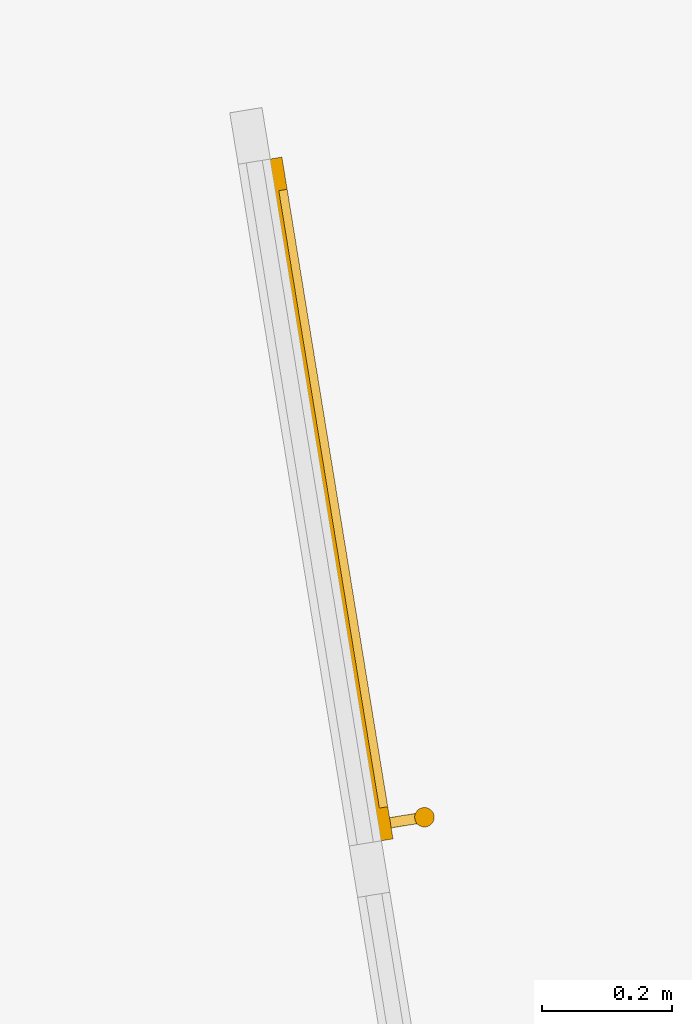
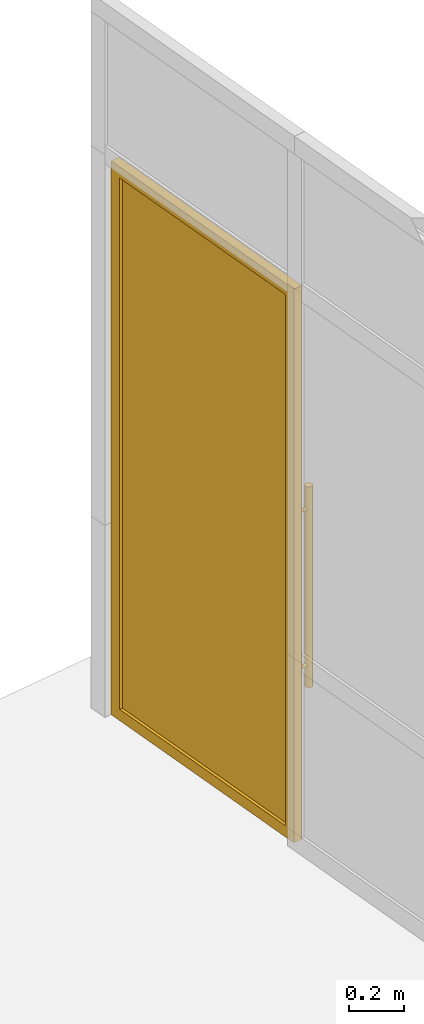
# One storey, part 17 of 18: 1 door, 1 element without a shape of its own.
"""IFC2X3 building model written with IfcOpenShell, lengths in millimetres."""

from ifc_helpers import new_model, entity, si_unit, converted_unit, derived_unit, direction, frame, origin, origin_with_axes, origin_2d_with_axis, place, context, subcontext, project, spatial, polyline, rectangle, circle, outline, extrude, source, transform, mapped, material, material_list, type_object, element, aggregate, save


model = new_model("IFC2X3")

# Units and contexts
model_context = context("Model", 3, precision=0.01, world=origin(), true_north=direction((6.12323399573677e-17, 1.0)))
plan_context = context("Plan", 3, precision=1e-05, world=origin_with_axes())
body_context = subcontext(model_context, "Body", "Model", "MODEL_VIEW")
ifc_project = project(units=[converted_unit("PLANEANGLEUNIT", "DEGREE", entity("IfcPositiveLengthMeasure", 0.0174532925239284), si_unit("PLANEANGLEUNIT", "RADIAN"), dimensions=[0, 0, 0, 0, 0, 0, 0]), si_unit("AREAUNIT", "SQUARE_METRE"), si_unit("LENGTHUNIT", "METRE", prefix="MILLI"), si_unit("MASSUNIT", "GRAM", prefix="KILO"), si_unit("POWERUNIT", "WATT"), si_unit("PRESSUREUNIT", "PASCAL", prefix="KILO"), si_unit("FORCEUNIT", "NEWTON", prefix="KILO"), si_unit("ELECTRICVOLTAGEUNIT", "VOLT"), si_unit("ELECTRICCURRENTUNIT", "AMPERE"), si_unit("THERMODYNAMICTEMPERATUREUNIT", "DEGREE_CELSIUS"), si_unit("TIMEUNIT", "SECOND"), si_unit("VOLUMEUNIT", "CUBIC_METRE"), derived_unit("LINEARVELOCITYUNIT", [(si_unit("LENGTHUNIT", "METRE"), 1), (si_unit("TIMEUNIT", "SECOND"), -1)]), derived_unit("VOLUMETRICFLOWRATEUNIT", [(si_unit("VOLUMEUNIT", "CUBIC_METRE"), 1), (si_unit("TIMEUNIT", "SECOND"), -1)]), derived_unit("THERMALTRANSMITTANCEUNIT", [(si_unit("POWERUNIT", "WATT"), 1), (si_unit("THERMODYNAMICTEMPERATUREUNIT", "KELVIN"), -1), (si_unit("AREAUNIT", "SQUARE_METRE"), -1)]), derived_unit("SOUNDPRESSUREUNIT", [(si_unit("PRESSUREUNIT", "PASCAL"), 1)])], contexts=[model_context, plan_context])

# Site, building, storey
site_placement = place(None, frame((-305029.896016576, -232111.759730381, 0.0), z_axis=(0.0, 0.0, 1.0), x_axis=(-0.160806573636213, 0.986985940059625, 0.0)))
site = spatial("IfcSite", under=ifc_project, at=site_placement, Name="Default", CompositionType="ELEMENT")
building_placement = place(site_placement, frame((0.0, 0.0, 0.0), z_axis=(0.0, 0.0, 1.0), x_axis=(1.0, -2.77555756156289e-17, 0.0)))
building = spatial("IfcBuilding", under=site, at=building_placement, Name="br001-a-200-1-0001", CompositionType="ELEMENT")
storey_placement = place(building_placement, frame((0.0, 0.0, 55500.0), z_axis=(0.0, 0.0, 1.0), x_axis=(1.0, -2.77555756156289e-17, 0.0)))
storey = spatial("IfcBuildingStorey", under=building, at=storey_placement, Name="H02-Nivå F-3,5 m", CompositionType="ELEMENT", Elevation=55500.0)

# Curtain wall, door
curtain_wall_type = type_object("IfcCurtainWallType", Name="Curtain Wall:A243 Innvendig glassvegg", PredefinedType="NOTDEFINED")
curtain_wall_placement = place(storey_placement, frame((0.0, 0.0, -55500.0), z_axis=(0.0, 0.0, 1.0), x_axis=(1.0, -2.77555756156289e-17, 0.0)))
curtain_wall = element("IfcCurtainWall", 1, at=curtain_wall_placement, inside=storey, type_object=curtain_wall_type, Name="Curtain Wall:A243 Innvendig glassvegg", ObjectType="Curtain Wall:A243 Innvendig glassvegg")
ifc_material_1 = material(Name="Metal - Aluminum")
ifc_material_2 = material(Name="Glass")
ifc_material_list = material_list([ifc_material_1, ifc_material_2])
door_style = type_object("IfcDoorStyle", Name="Sgl Glass (1):IDG 11x21 M", ConstructionType="NOTDEFINED", OperationType="NOTDEFINED", ParameterTakesPrecedence=False, Sizeable=False, material=ifc_material_list)
shared_shape = source(origin(), body_context, "Body", "SweptSolid", [
    extrude(outline(polyline([(-1240.0, -530.0), (1240.0, -530.0), (1240.0, 530.0), (-1240.0, 530.0), (-1240.0, -530.0)]), holes=[polyline([(1190.0, 480.0), (1190.0, -480.0), (-1190.0, -480.0), (-1190.0, 480.0), (1190.0, 480.0)])]), frame((0.0, 43.0, 1240.0), z_axis=(0.0, -1.0, 0.0), x_axis=(0.0, 0.0, 1.0)), (0.0, 0.0, 1.0), 38.0000000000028),
    extrude(rectangle(XDim=12.0, YDim=960.000000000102, at=origin_2d_with_axis()), frame((0.0, 24.0, 50.0), z_axis=(0.0, 0.0, 1.0), x_axis=(0.0, -1.0, 0.0)), (0.0, 0.0, 1.0), 2380.0),
    extrude(circle(Radius=15.0, at=origin_2d_with_axis()), frame((505.0, 96.0, 650.0), z_axis=(0.0, 0.0, 1.0), x_axis=(0.0, 1.0, 0.0)), (0.0, 0.0, 1.0), 899.999999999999),
    extrude(circle(Radius=8.0, at=origin_2d_with_axis()), frame((505.0, 96.0, 750.0), z_axis=(0.0, -1.0, 0.0), x_axis=(1.0, 0.0, 0.0)), (0.0, 0.0, 1.0), 53.0),
    extrude(circle(Radius=8.0, at=origin_2d_with_axis()), frame((505.0, 96.0, 1450.0), z_axis=(0.0, -1.0, 0.0), x_axis=(1.0, 0.0, 0.0)), (0.0, 0.0, 1.0), 53.0),
])
door_placement = place(curtain_wall_placement, frame((1195813.59858442, -728835.878367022, 55500.0), z_axis=(0.0, 0.0, 1.0), x_axis=(-1.0, 2.77555756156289e-17, 0.0)))
door = element("IfcDoor", 2, at=door_placement, type_object=door_style, material=ifc_material_list, Name="Sgl Glass (1):IDG 11x21 M", ObjectType="Sgl Glass (1):IDG 11x21 M", OverallHeight=2480.0, OverallWidth=1060.00000000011, context=body_context, shape_type="MappedRepresentation", body=[
    mapped(shared_shape, transform((0.0, 0.0, 0.0), scale=1.0)),
])
aggregate(curtain_wall, [door])

save(model, "model.ifc")
